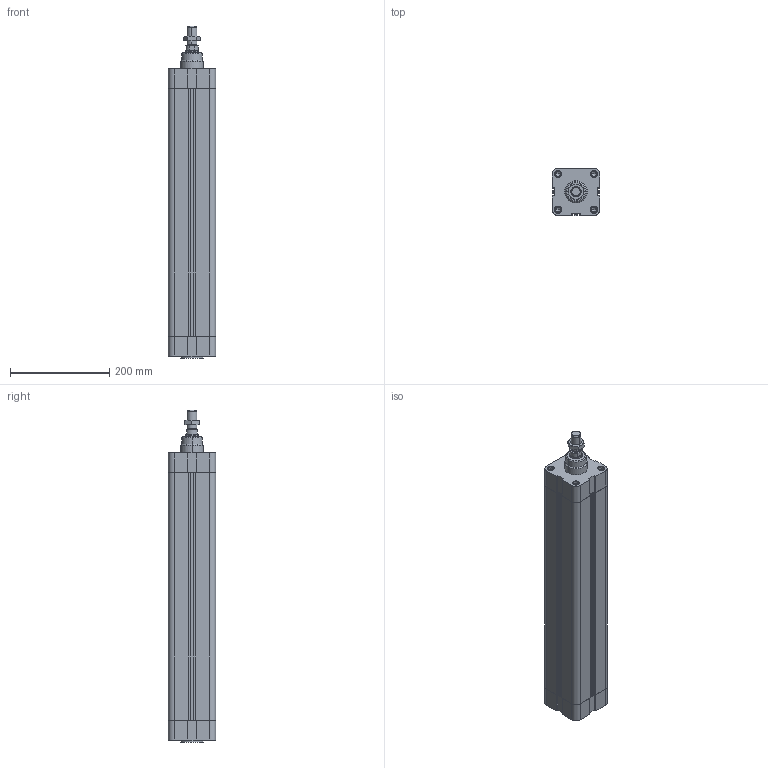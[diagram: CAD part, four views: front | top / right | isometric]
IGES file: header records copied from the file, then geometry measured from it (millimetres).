
Global section: file name: No Iges File Name specified; native system: Autodesk Inventor 2010; preprocessor: AutoDesk Inventor Iges Exporter R2010; author: rivolro1; date: 20090707.103457; units: millimetre
Bounding box: 95.5 x 95.5 x 668 mm (x, y, z)
Volume: 3115802 mm3; surface area: 503869 mm2
Topology: 5 solids, 5 shells, 290 faces, 694 edges, 440 vertices
Faces by surface type: plane 120, bspline 74, cylinder 40, revolution 34, cone 20, torus 2
